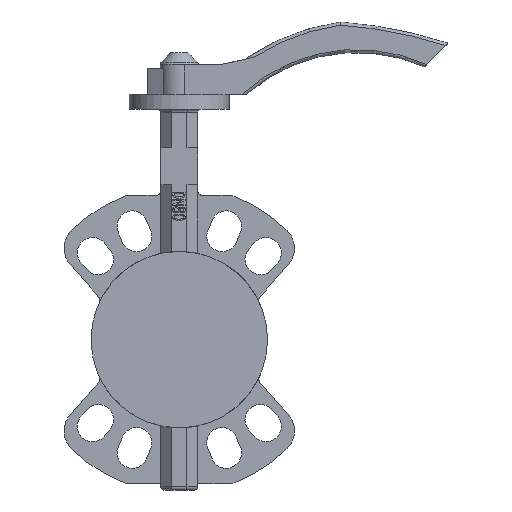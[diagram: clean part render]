
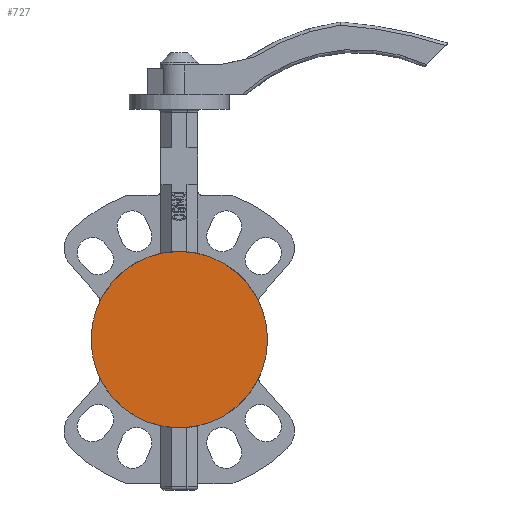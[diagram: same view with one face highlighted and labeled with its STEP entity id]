
A CAD part, left-side view. The second image highlights one B-rep face of the part: STEP entity #727.
In plain terms, the highlighted planar face has unit normal (-1, 0, 0).
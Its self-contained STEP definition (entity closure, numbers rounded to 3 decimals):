
#415=PLANE('',#4524);
#511=FACE_OUTER_BOUND('',#1075,.T.);
#727=ADVANCED_FACE('',(#511),#415,.F.);
#1075=EDGE_LOOP('',(#2181));
#2181=ORIENTED_EDGE('',*,*,#3776,.F.);
#3363=VERTEX_POINT('',#5808);
#3776=EDGE_CURVE('',#3363,#3363,#4392,.T.);
#4392=CIRCLE('',#4500,57.5);
#4500=AXIS2_PLACEMENT_3D('',#5807,#4810,#4811);
#4524=AXIS2_PLACEMENT_3D('',#5924,#4902,#4903);
#4810=DIRECTION('',(1.,0.,0.));
#4811=DIRECTION('',(0.,1.,0.));
#4902=DIRECTION('',(1.,0.,0.));
#4903=DIRECTION('',(0.,0.,-1.));
#5807=CARTESIAN_POINT('',(-23.,0.,0.));
#5808=CARTESIAN_POINT('',(-23.,57.5,0.));
#5924=CARTESIAN_POINT('',(-23.,0.,0.));
